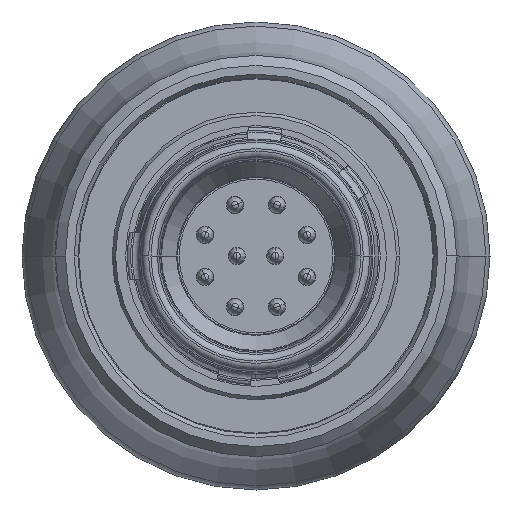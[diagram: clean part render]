
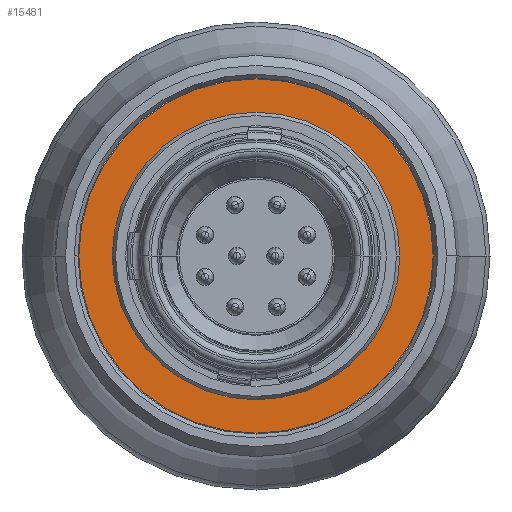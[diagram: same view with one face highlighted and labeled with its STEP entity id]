
A CAD part, left-side view. The second image highlights one B-rep face of the part: STEP entity #15481.
In plain terms, the highlighted planar face has unit normal (-1, 0, 0).
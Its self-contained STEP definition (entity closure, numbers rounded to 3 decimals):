
#1454=CARTESIAN_POINT('',(10.001,0.,0.));
#1455=DIRECTION('',(1.,0.,0.));
#1456=DIRECTION('',(0.,1.,0.));
#1457=AXIS2_PLACEMENT_3D('',#1454,#1455,#1456);
#1459=CARTESIAN_POINT('',(10.001,0.,0.));
#1460=DIRECTION('',(1.,0.,0.));
#1461=DIRECTION('',(0.,-1.,0.));
#1462=AXIS2_PLACEMENT_3D('',#1459,#1460,#1461);
#1464=CARTESIAN_POINT('',(10.001,0.,0.));
#1465=DIRECTION('',(-1.,0.,0.));
#1466=DIRECTION('',(0.,1.,0.));
#1467=AXIS2_PLACEMENT_3D('',#1464,#1465,#1466);
#1469=CARTESIAN_POINT('',(10.001,0.,0.));
#1470=DIRECTION('',(-1.,0.,0.));
#1471=DIRECTION('',(0.,-1.,0.));
#1472=AXIS2_PLACEMENT_3D('',#1469,#1470,#1471);
#11132=CARTESIAN_POINT('',(10.001,4.3,0.));
#11133=VERTEX_POINT('',#11132);
#11134=CARTESIAN_POINT('',(10.001,-4.3,0.));
#11135=VERTEX_POINT('',#11134);
#11138=CARTESIAN_POINT('',(10.001,5.3,0.));
#11139=CARTESIAN_POINT('',(10.001,-5.3,0.));
#11140=VERTEX_POINT('',#11138);
#11141=VERTEX_POINT('',#11139);
#15466=CARTESIAN_POINT('',(10.001,0.,0.));
#15467=DIRECTION('',(1.,0.,0.));
#15468=DIRECTION('',(0.,-1.,0.));
#15469=AXIS2_PLACEMENT_3D('',#15466,#15467,#15468);
#15470=PLANE('',#15469);
#15472=ORIENTED_EDGE('',*,*,#15471,.T.);
#15474=ORIENTED_EDGE('',*,*,#15473,.T.);
#15475=EDGE_LOOP('',(#15472,#15474));
#15476=FACE_OUTER_BOUND('',#15475,.F.);
#15477=ORIENTED_EDGE('',*,*,#15432,.T.);
#15478=ORIENTED_EDGE('',*,*,#15408,.T.);
#15479=EDGE_LOOP('',(#15477,#15478));
#15480=FACE_BOUND('',#15479,.F.);
#1458=CIRCLE('',#1457,5.3);
#1463=CIRCLE('',#1462,5.3);
#1468=CIRCLE('',#1467,4.3);
#1473=CIRCLE('',#1472,4.3);
#15408=EDGE_CURVE('',#11135,#11133,#1473,.T.);
#15432=EDGE_CURVE('',#11133,#11135,#1468,.T.);
#15471=EDGE_CURVE('',#11140,#11141,#1458,.T.);
#15473=EDGE_CURVE('',#11141,#11140,#1463,.T.);
#15481=ADVANCED_FACE('',(#15476,#15480),#15470,.F.);
